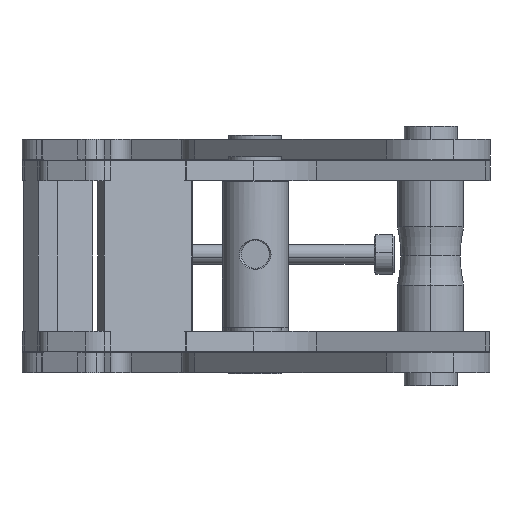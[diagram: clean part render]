
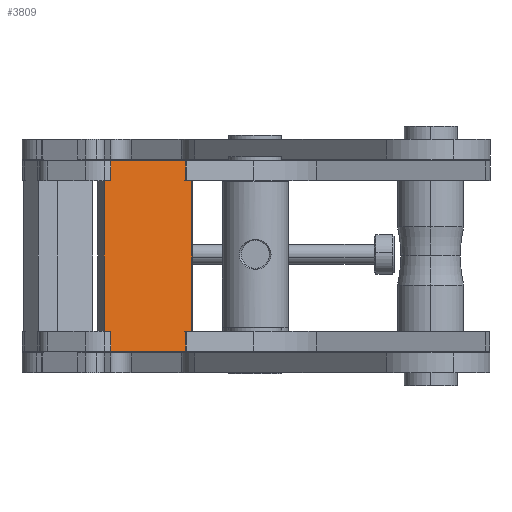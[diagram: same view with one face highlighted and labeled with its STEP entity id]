
A CAD part, left-side view. The second image highlights one B-rep face of the part: STEP entity #3809.
In plain terms, the highlighted planar face has unit normal (-0.944, -0.331, 0) as drawn and (0, 0, 1) by its records, which use the part's own axes.
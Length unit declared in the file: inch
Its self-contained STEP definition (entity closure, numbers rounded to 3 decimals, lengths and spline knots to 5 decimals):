
#48 = CARTESIAN_POINT ( 'NONE',  ( 2.85, 1.625, 0.375 ) ) ;
#272 = EDGE_CURVE ( 'NONE', #6748, #18156, #7109, .T. ) ;
#464 = VERTEX_POINT ( 'NONE', #1166 ) ;
#641 = LINE ( 'NONE', #18762, #15793 ) ;
#945 = DIRECTION ( 'NONE',  ( 0., -1., 0. ) ) ;
#1159 = VECTOR ( 'NONE', #2313, 39.37008 ) ;
#1166 = CARTESIAN_POINT ( 'NONE',  ( 0., 0.125, 0.375 ) ) ;
#1329 = VERTEX_POINT ( 'NONE', #16703 ) ;
#1649 = CARTESIAN_POINT ( 'NONE',  ( 3.225, 1.625, 0.375 ) ) ;
#2174 = VERTEX_POINT ( 'NONE', #18509 ) ;
#2313 = DIRECTION ( 'NONE',  ( 1., 0., 0. ) ) ;
#2395 = ORIENTED_EDGE ( 'NONE', *, *, #19555, .T. ) ;
#2450 = CARTESIAN_POINT ( 'NONE',  ( 2.85, 0., 0.375 ) ) ;
#2458 = CARTESIAN_POINT ( 'NONE',  ( 2.85, 1.625, 0.375 ) ) ;
#2465 = EDGE_CURVE ( 'NONE', #20674, #464, #10371, .T. ) ;
#2616 = EDGE_CURVE ( 'NONE', #2174, #1329, #10481, .T. ) ;
#3000 = LINE ( 'NONE', #8158, #16217 ) ;
#3591 = CARTESIAN_POINT ( 'NONE',  ( 0., 0., 0.375 ) ) ;
#3782 = ORIENTED_EDGE ( 'NONE', *, *, #20684, .T. ) ;
#3809 = ADVANCED_FACE ( 'NONE', ( #17971 ), #14857, .T. ) ;
#3885 = DIRECTION ( 'NONE',  ( -1., 0., 0. ) ) ;
#4157 = VECTOR ( 'NONE', #8999, 39.37008 ) ;
#4521 = ORIENTED_EDGE ( 'NONE', *, *, #2465, .T. ) ;
#4593 = CARTESIAN_POINT ( 'NONE',  ( 0., 0., 0.375 ) ) ;
#4738 = LINE ( 'NONE', #4843, #12871 ) ;
#4843 = CARTESIAN_POINT ( 'NONE',  ( 3.225, 1.625, 0.375 ) ) ;
#5219 = EDGE_CURVE ( 'NONE', #20629, #20674, #3000, .T. ) ;
#5230 = VECTOR ( 'NONE', #5995, 39.37008 ) ;
#5995 = DIRECTION ( 'NONE',  ( 1., 0., 0. ) ) ;
#6018 = EDGE_CURVE ( 'NONE', #12517, #10476, #8597, .T. ) ;
#6461 = DIRECTION ( 'NONE',  ( 0., 1., 0. ) ) ;
#6748 = VERTEX_POINT ( 'NONE', #20163 ) ;
#7003 = AXIS2_PLACEMENT_3D ( 'NONE', #3591, #10150, #15168 ) ;
#7109 = LINE ( 'NONE', #4593, #5230 ) ;
#7854 = VERTEX_POINT ( 'NONE', #9482 ) ;
#8158 = CARTESIAN_POINT ( 'NONE',  ( -0.375, 0.125, 0.375 ) ) ;
#8168 = ORIENTED_EDGE ( 'NONE', *, *, #6018, .T. ) ;
#8466 = EDGE_CURVE ( 'NONE', #10476, #7854, #11843, .T. ) ;
#8597 = LINE ( 'NONE', #18145, #18968 ) ;
#8646 = ORIENTED_EDGE ( 'NONE', *, *, #18774, .T. ) ;
#8999 = DIRECTION ( 'NONE',  ( -1., 0., 0. ) ) ;
#9482 = CARTESIAN_POINT ( 'NONE',  ( 0., 1.75, 0.375 ) ) ;
#9819 = LINE ( 'NONE', #21201, #13549 ) ;
#9893 = ORIENTED_EDGE ( 'NONE', *, *, #2616, .T. ) ;
#10150 = DIRECTION ( 'NONE',  ( 0., 0., 1. ) ) ;
#10371 = LINE ( 'NONE', #20020, #15886 ) ;
#10476 = VERTEX_POINT ( 'NONE', #18648 ) ;
#10481 = LINE ( 'NONE', #17000, #1159 ) ;
#10962 = VECTOR ( 'NONE', #12083, 39.37008 ) ;
#11313 = CARTESIAN_POINT ( 'NONE',  ( 2.85, 0., 0.375 ) ) ;
#11722 = VECTOR ( 'NONE', #6461, 39.37008 ) ;
#11776 = EDGE_CURVE ( 'NONE', #7854, #19422, #641, .T. ) ;
#11843 = LINE ( 'NONE', #19991, #12503 ) ;
#11880 = CARTESIAN_POINT ( 'NONE',  ( 0., 0., 0.375 ) ) ;
#11935 = EDGE_CURVE ( 'NONE', #16437, #12517, #17152, .T. ) ;
#12083 = DIRECTION ( 'NONE',  ( 0., -1., 0. ) ) ;
#12503 = VECTOR ( 'NONE', #3885, 39.37008 ) ;
#12517 = VERTEX_POINT ( 'NONE', #48 ) ;
#12871 = VECTOR ( 'NONE', #14930, 39.37008 ) ;
#12919 = DIRECTION ( 'NONE',  ( -1., 0., 0. ) ) ;
#13379 = DIRECTION ( 'NONE',  ( 1., 0., 0. ) ) ;
#13549 = VECTOR ( 'NONE', #12919, 39.37008 ) ;
#13672 = ORIENTED_EDGE ( 'NONE', *, *, #5219, .T. ) ;
#13922 = LINE ( 'NONE', #11880, #10962 ) ;
#13932 = EDGE_CURVE ( 'NONE', #18156, #2174, #14832, .T. ) ;
#14832 = LINE ( 'NONE', #11313, #11722 ) ;
#14857 = PLANE ( 'NONE',  #7003 ) ;
#14930 = DIRECTION ( 'NONE',  ( 0., 1., 0. ) ) ;
#15158 = CARTESIAN_POINT ( 'NONE',  ( -0.375, 1.625, 0.375 ) ) ;
#15168 = DIRECTION ( 'NONE',  ( 1., 0., 0. ) ) ;
#15793 = VECTOR ( 'NONE', #945, 39.37008 ) ;
#15886 = VECTOR ( 'NONE', #13379, 39.37008 ) ;
#16217 = VECTOR ( 'NONE', #17911, 39.37008 ) ;
#16437 = VERTEX_POINT ( 'NONE', #1649 ) ;
#16703 = CARTESIAN_POINT ( 'NONE',  ( 3.225, 0.125, 0.375 ) ) ;
#17000 = CARTESIAN_POINT ( 'NONE',  ( 2.85, 0.125, 0.375 ) ) ;
#17152 = LINE ( 'NONE', #2458, #4157 ) ;
#17764 = EDGE_LOOP ( 'NONE', ( #8646, #18585, #18803, #9893, #3782, #18561, #8168, #20700, #19237, #2395, #13672, #4521 ) ) ;
#17911 = DIRECTION ( 'NONE',  ( 0., -1., 0. ) ) ;
#17971 = FACE_OUTER_BOUND ( 'NONE', #17764, .T. ) ;
#18145 = CARTESIAN_POINT ( 'NONE',  ( 2.85, 1.625, 0.375 ) ) ;
#18156 = VERTEX_POINT ( 'NONE', #2450 ) ;
#18509 = CARTESIAN_POINT ( 'NONE',  ( 2.85, 0.125, 0.375 ) ) ;
#18561 = ORIENTED_EDGE ( 'NONE', *, *, #11935, .T. ) ;
#18585 = ORIENTED_EDGE ( 'NONE', *, *, #272, .T. ) ;
#18648 = CARTESIAN_POINT ( 'NONE',  ( 2.85, 1.75, 0.375 ) ) ;
#18762 = CARTESIAN_POINT ( 'NONE',  ( 0., 1.625, 0.375 ) ) ;
#18774 = EDGE_CURVE ( 'NONE', #464, #6748, #13922, .T. ) ;
#18803 = ORIENTED_EDGE ( 'NONE', *, *, #13932, .T. ) ;
#18968 = VECTOR ( 'NONE', #20199, 39.37008 ) ;
#19237 = ORIENTED_EDGE ( 'NONE', *, *, #11776, .T. ) ;
#19359 = CARTESIAN_POINT ( 'NONE',  ( 0., 1.625, 0.375 ) ) ;
#19422 = VERTEX_POINT ( 'NONE', #19359 ) ;
#19443 = CARTESIAN_POINT ( 'NONE',  ( -0.375, 0.125, 0.375 ) ) ;
#19555 = EDGE_CURVE ( 'NONE', #19422, #20629, #9819, .T. ) ;
#19991 = CARTESIAN_POINT ( 'NONE',  ( 0., 1.75, 0.375 ) ) ;
#20020 = CARTESIAN_POINT ( 'NONE',  ( 0., 0.125, 0.375 ) ) ;
#20163 = CARTESIAN_POINT ( 'NONE',  ( 0., 0., 0.375 ) ) ;
#20199 = DIRECTION ( 'NONE',  ( 0., 1., 0. ) ) ;
#20629 = VERTEX_POINT ( 'NONE', #15158 ) ;
#20674 = VERTEX_POINT ( 'NONE', #19443 ) ;
#20684 = EDGE_CURVE ( 'NONE', #1329, #16437, #4738, .T. ) ;
#20700 = ORIENTED_EDGE ( 'NONE', *, *, #8466, .T. ) ;
#21201 = CARTESIAN_POINT ( 'NONE',  ( 0., 1.625, 0.375 ) ) ;
